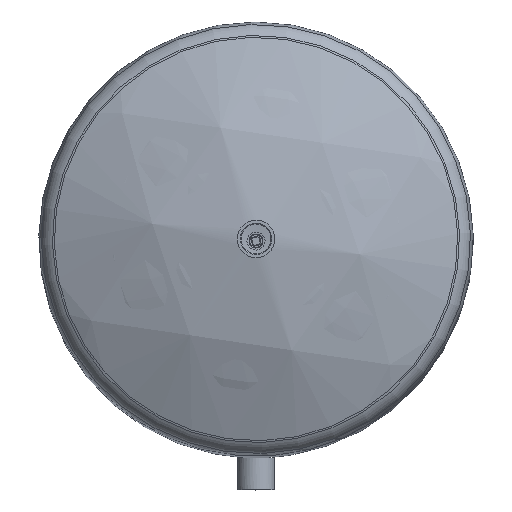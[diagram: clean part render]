
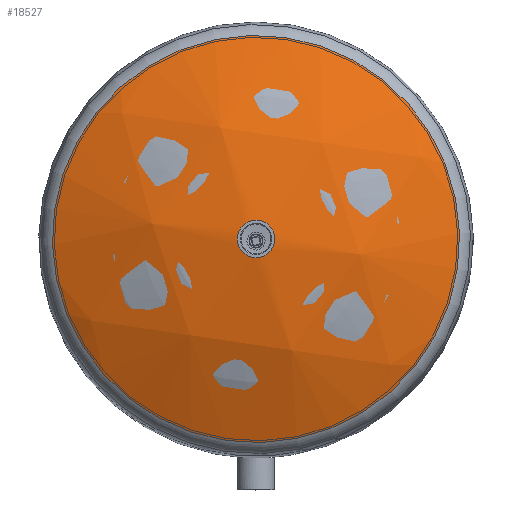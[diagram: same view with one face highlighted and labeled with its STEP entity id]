
A CAD part, top view. The second image highlights one B-rep face of the part: STEP entity #18527.
In plain terms, the highlighted spherical face has radius 656 mm.
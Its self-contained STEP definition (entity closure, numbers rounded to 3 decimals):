
#17726=CARTESIAN_POINT('',(23.644,-3.489,1609.564));
#17727=VERTEX_POINT('',#17726);
#18427=CARTESIAN_POINT('',(0.,0.,1609.564));
#18428=DIRECTION('',(0.,0.,-1.));
#18429=DIRECTION('',(-0.989,0.146,0.));
#18430=AXIS2_PLACEMENT_3D('',#18427,#18428,#18429);
#18431=CIRCLE('',#18430,23.9);
#18432=EDGE_CURVE('',#17727,#17727,#18431,.T.);
#18501=CARTESIAN_POINT('',(301.568,-44.502,1534.872));
#18502=VERTEX_POINT('',#18501);
#18503=CARTESIAN_POINT('',(0.,0.,1534.872));
#18504=DIRECTION('',(0.,0.,1.));
#18505=DIRECTION('',(0.989,-0.146,0.));
#18506=AXIS2_PLACEMENT_3D('',#18503,#18504,#18505);
#18507=CIRCLE('',#18506,304.834);
#18508=EDGE_CURVE('',#18502,#18502,#18507,.T.);
#18516=CARTESIAN_POINT('',(0.,0.,954.));
#18517=DIRECTION('',(0.146,0.989,0.));
#18518=DIRECTION('',(0.989,-0.146,0.));
#18519=AXIS2_PLACEMENT_3D('',#18516,#18517,#18518);
#18520=SPHERICAL_SURFACE('',#18519,656.);
#18521=ORIENTED_EDGE('',*,*,#18432,.T.);
#18522=EDGE_LOOP('',(#18521));
#18523=FACE_OUTER_BOUND('',#18522,.T.);
#18524=ORIENTED_EDGE('',*,*,#18508,.T.);
#18525=EDGE_LOOP('',(#18524));
#18526=FACE_BOUND('',#18525,.T.);
#18527=ADVANCED_FACE('',(#18523,#18526),#18520,.T.);
